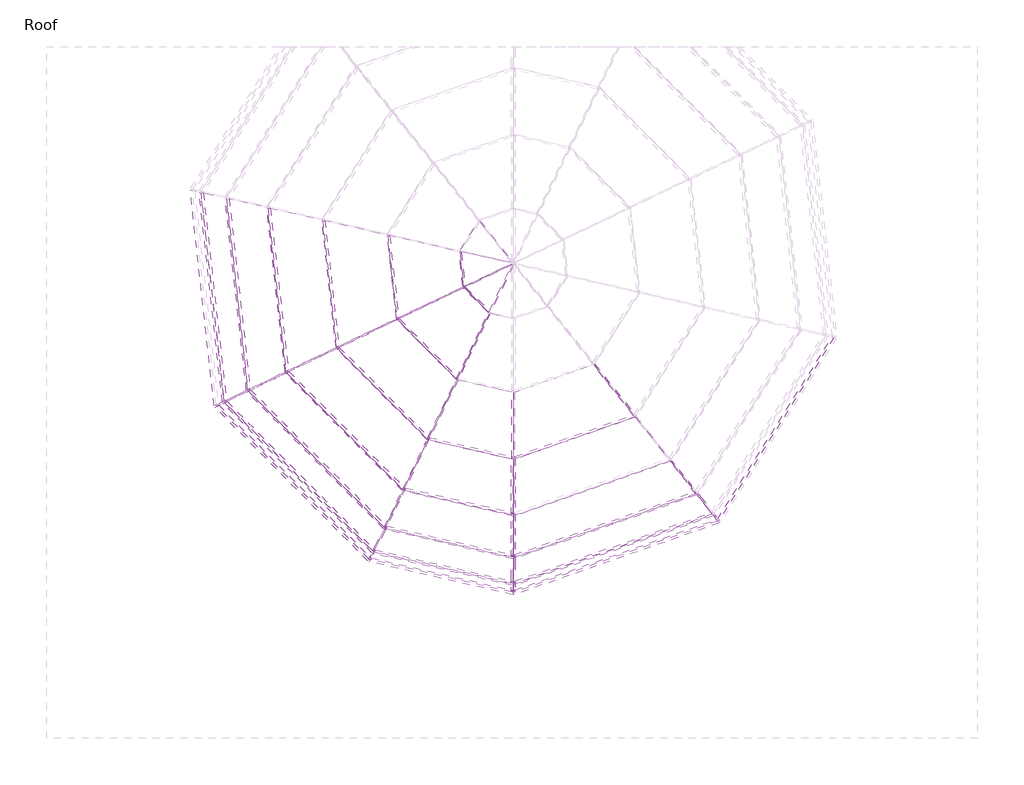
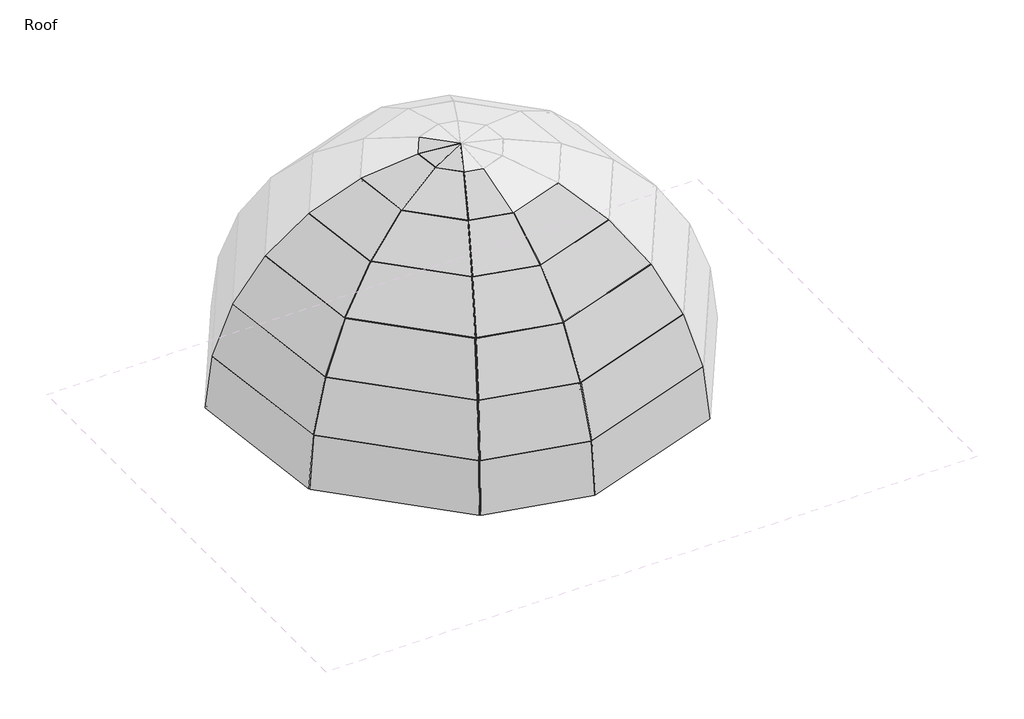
# One storey, part 1 of 3: 50 members, 26 plates.
"""IFC4 building model written with IfcOpenShell, lengths in millimetres."""

from ifc_helpers import new_model, si_unit, origin, place, context, project, spatial, transform, mapped, element, save
from components import member_4177733f, member_9a5a8c15, member_2d90878b, member_930283e5, member_073c649d, member_50d5fd5e, member_69438c30, member_4b421d57, member_97883678, member_c2c97b2d, member_c267af09, member_1d24c50e, member_f6a73803, member_19cfab1d, member_88023728, member_87472d51, member_1e756ab6, member_ee5d5078, member_656fa572, member_e5dce827, member_edda2d83, member_8e37f879, member_3071623d, member_777b2020, member_0c982175, member_dd57c742, member_19a4d049, member_8c9737d1, member_600e1e00, system_panel_glazed_566e1773, system_panel_glazed_3fa45d0b, system_panel_glazed_15b653d3, system_panel_glazed_2a1648c4, system_panel_glazed_7bc4ba0a, system_panel_glazed_a49b1de4, system_panel_glazed_db51fd20, system_panel_glazed_a2729e2c, system_panel_glazed_c7a8e9dd, system_panel_glazed_d52d0d09, system_panel_glazed_54dd6e29, system_panel_glazed_bc119c3e, system_panel_glazed_1b81f75c, system_panel_glazed_a373f290, system_panel_glazed_c068685c

model = new_model("IFC4")

# Units and contexts
model_context = context("Model", 3, world=origin())
ifc_project = project(units=[si_unit("LENGTHUNIT", "METRE", prefix="MILLI")], contexts=[model_context])

# Site, building, storey
site = spatial("IfcSite", under=ifc_project)
building = spatial("IfcBuilding", under=site)
storey = spatial("IfcBuildingStorey", under=building, Name="Roof", Elevation=15240.0)

# Members
placement = place(None, origin())
member_shape = member_4177733f(model_context)
element("IfcMember", 1, ObjectType="Rectangular Mullion : 1\" Square", at=placement, inside=storey, context=model_context, shape_type="MappedRepresentation", body=[
    mapped(member_shape, transform((269.2915171, -4606.2403771, 18288.0), x_axis=(0.03636859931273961, -0.10404009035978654, -0.9939079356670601), y_axis=(0.3279728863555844, -0.938235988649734, 0.11021349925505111), z_axis=(-0.9439868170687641, -0.32998316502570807, 0.0))),
])
member_2_shape = member_9a5a8c15(model_context)
element("IfcMember", 2, ObjectType="Rectangular Mullion : 1\" Square", at=placement, inside=storey, context=model_context, shape_type="MappedRepresentation", body=[
    mapped(member_2_shape, transform((245.314252, -4614.6219495, 18288.0), x_axis=(0.9749803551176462, -0.2207730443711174, 0.025933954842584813), y_axis=(-0.2222910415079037, -0.9683223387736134, 0.11374770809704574), z_axis=(0.0, -0.11666666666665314, -0.9931711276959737))),
])
member_3_shape = member_2d90878b(model_context)
element("IfcMember", 3, ObjectType="Rectangular Mullion : 1\" Square", at=placement, inside=storey, context=model_context, shape_type="MappedRepresentation", body=[
    mapped(member_3_shape, transform((3093.6680358, -3618.9419467, 18288.0), x_axis=(0.7822222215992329, 0.6229995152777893, 0.0), y_axis=(0.618745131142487, -0.7768805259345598, 0.11666666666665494), z_axis=(0.07268327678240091, -0.09125925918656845, -0.9931711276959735))),
])
element("IfcMember", 4, ObjectType="Rectangular Mullion : 1\" Square", at=placement, inside=storey, context=model_context, shape_type="MappedRepresentation", body=[
    mapped(member_3_shape, transform((-3877.6391616, -2018.587321, 18288.0), x_axis=(0.43218840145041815, -0.9017833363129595, 0.0), y_axis=(-0.8956251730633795, -0.4292370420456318, 0.11666666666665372), z_axis=(-0.10520805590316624, -0.050421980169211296, -0.9931711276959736))),
])
element("IfcMember", 5, ObjectType="Rectangular Mullion : 1\" Square", at=placement, inside=storey, context=model_context, shape_type="MappedRepresentation", body=[
    mapped(member_3_shape, transform((-1748.7260623, -4156.8639484, 18288.0), x_axis=(0.8998779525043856, -0.4361418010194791, 0.0), y_axis=(-0.4331634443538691, -0.8937328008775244, 0.11666666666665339), z_axis=(-0.05088321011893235, -0.1049857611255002, -0.9931711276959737))),
])
member_4_shape = member_930283e5(model_context)
element("IfcMember", 6, ObjectType="Rectangular Mullion : 1\" Square", at=placement, inside=storey, context=model_context, shape_type="MappedRepresentation", body=[
    mapped(member_4_shape, transform((3004.1408836, -3525.7773552, 19347.514959), x_axis=(-0.08074328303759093, 0.23098328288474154, 0.969601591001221), y_axis=(0.31995220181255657, -0.9152911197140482, 0.24468909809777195), z_axis=(0.9439868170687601, 0.32998316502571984, 0.0))),
])
member_5_shape = member_073c649d(model_context)
element("IfcMember", 7, ObjectType="Rectangular Mullion : 1\" Square", at=placement, inside=storey, context=model_context, shape_type="MappedRepresentation", body=[
    mapped(member_5_shape, transform((-3766.8053744, -1952.1747942, 19347.514959), x_axis=(0.24319318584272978, 0.027015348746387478, 0.9696015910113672), y_axis=(-0.9636739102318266, -0.10705064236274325, 0.24468909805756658), z_axis=(0.11040683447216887, -0.9938864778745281, 0.0))),
])
element("IfcMember", 8, ObjectType="Rectangular Mullion : 1\" Square", at=placement, inside=storey, context=model_context, shape_type="MappedRepresentation", body=[
    mapped(member_5_shape, transform((-1703.4043828, -4035.8651985, 19347.514959), x_axis=(0.17340056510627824, 0.17264124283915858, 0.969601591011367), y_axis=(-0.6871146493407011, -0.6841057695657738, 0.24468909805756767), z_axis=(0.705553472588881, -0.7086566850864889, 0.0))),
])
member_6_shape = member_50d5fd5e(model_context)
element("IfcMember", 9, ObjectType="Rectangular Mullion : 1\" Square", at=placement, inside=storey, context=model_context, shape_type="MappedRepresentation", body=[
    mapped(member_6_shape, transform((220.5581895, -4484.478872, 19347.514959), x_axis=(0.05312380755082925, 0.2314126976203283, 0.9714041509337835), y_axis=(-0.2173450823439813, -0.9467772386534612, 0.2374320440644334), z_axis=(0.9746481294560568, -0.2237432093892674, 0.0))),
])
member_7_shape = member_69438c30(model_context)
element("IfcMember", 10, ObjectType="Rectangular Mullion : 1\" Square", at=placement, inside=storey, context=model_context, shape_type="MappedRepresentation", body=[
    mapped(member_7_shape, transform((2775.7468662, -3239.0116815, 20349.3452147), x_axis=(-0.15568345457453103, 0.4453655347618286, 0.8817098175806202), y_axis=(0.2909493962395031, -0.8323224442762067, 0.47179211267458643), z_axis=(0.9439868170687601, 0.32998316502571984, 0.0))),
])
member_8_shape = member_4b421d57(model_context)
element("IfcMember", 11, ObjectType="Rectangular Mullion : 1\" Square", at=placement, inside=storey, context=model_context, shape_type="MappedRepresentation", body=[
    mapped(member_8_shape, transform((-3436.2081365, -1793.7328647, 20349.3452147), x_axis=(0.46890780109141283, 0.05208907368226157, 0.8817098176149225), y_axis=(-0.8763194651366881, -0.09734678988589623, 0.47179211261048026), z_axis=(0.1104068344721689, -0.9938864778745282, 0.0))),
])
element("IfcMember", 12, ObjectType="Rectangular Mullion : 1\" Square", at=placement, inside=storey, context=model_context, shape_type="MappedRepresentation", body=[
    mapped(member_8_shape, transform((-1543.5131219, -3705.9664816, 20349.3452147), x_axis=(0.334338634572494, 0.3328745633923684, 0.8817098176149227), y_axis=(-0.6248295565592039, -0.6220934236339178, 0.47179211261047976), z_axis=(0.7055534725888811, -0.7086566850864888, 0.0))),
])
member_9_shape = member_97883678(model_context)
element("IfcMember", 13, ObjectType="Rectangular Mullion : 1\" Square", at=placement, inside=storey, context=model_context, shape_type="MappedRepresentation", body=[
    mapped(member_9_shape, transform((220.5581895, -4117.8750276, 20349.3452147), x_axis=(0.10295150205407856, 0.44846719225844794, 0.8878503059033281), y_axis=(-0.198650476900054, -0.8653416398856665, 0.4601324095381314), z_axis=(0.9746481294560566, -0.223743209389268, 0.0))),
])
member_10_shape = member_c2c97b2d(model_context)
element("IfcMember", 14, ObjectType="Rectangular Mullion : 1\" Square", at=placement, inside=storey, context=model_context, shape_type="MappedRepresentation", body=[
    mapped(member_10_shape, transform((-2905.2487976, -1539.265457, 21238.9466754), x_axis=(0.6628942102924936, 0.07363824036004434, 0.7450829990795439), y_axis=(-0.7405279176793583, -0.08226225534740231, 0.6669717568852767), z_axis=(0.11040683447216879, -0.9938864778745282, 0.0))),
])
element("IfcMember", 15, ObjectType="Rectangular Mullion : 1\" Square", at=placement, inside=storey, context=model_context, shape_type="MappedRepresentation", body=[
    mapped(member_10_shape, transform((-1286.7179993, -3176.1290101, 21238.9466754), x_axis=(0.472653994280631, 0.470584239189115, 0.7450829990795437), y_axis=(-0.5280080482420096, -0.5256958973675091, 0.6669717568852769), z_axis=(0.705553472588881, -0.7086566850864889, 0.0))),
])
member_11_shape = member_c267af09(model_context)
element("IfcMember", 16, ObjectType="Rectangular Mullion : 1\" Square", at=placement, inside=storey, context=model_context, shape_type="MappedRepresentation", body=[
    mapped(member_11_shape, transform((220.5581895, -3529.0868813, 21238.9466754), x_axis=(0.14656877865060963, 0.6384684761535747, 0.7555631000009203), y_axis=(-0.16905211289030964, -0.7364081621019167, 0.6550758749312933), z_axis=(0.9746481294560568, -0.22374320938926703, 0.0))),
])
member_12_shape = member_1d24c50e(model_context)
element("IfcMember", 17, ObjectType="Rectangular Mullion : 1\" Square", at=placement, inside=storey, context=model_context, shape_type="MappedRepresentation", body=[
    mapped(member_12_shape, transform((1923.6677186, -2169.1629458, 21967.8854838), x_axis=(-0.2708388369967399, 0.7747919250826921, 0.5712650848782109), y_axis=(0.1885078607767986, -0.5392667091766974, 0.820765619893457), z_axis=(0.9439868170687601, 0.32998316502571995, 0.0))),
])
member_13_shape = member_f6a73803(model_context)
element("IfcMember", 18, ObjectType="Rectangular Mullion : 1\" Square", at=placement, inside=storey, context=model_context, shape_type="MappedRepresentation", body=[
    mapped(member_13_shape, transform((-2202.8351439, -1202.6269077, 21967.8854838), x_axis=(0.8157478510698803, 0.09061813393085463, 0.571265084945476), y_axis=(-0.5677726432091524, -0.0630715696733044, 0.8207656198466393), z_axis=(0.11040683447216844, -0.9938864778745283, 0.0))),
])
element("IfcMember", 19, ObjectType="Rectangular Mullion : 1\" Square", at=placement, inside=storey, context=model_context, shape_type="MappedRepresentation", body=[
    mapped(member_13_shape, transform((-947.000083, -2475.1994908, 21967.8854838), x_axis=(0.5816410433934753, 0.5790940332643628, 0.5712650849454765), y_axis=(-0.4048308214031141, -0.40305806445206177, 0.8207656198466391), z_axis=(0.7055534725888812, -0.7086566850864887, 0.0))),
])
member_14_shape = member_19cfab1d(model_context)
element("IfcMember", 20, ObjectType="Rectangular Mullion : 1\" Square", at=placement, inside=storey, context=model_context, shape_type="MappedRepresentation", body=[
    mapped(member_14_shape, transform((220.5581895, -2750.1706768, 21967.8854838), x_axis=(0.1816939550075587, 0.7914773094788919, 0.5835674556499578), y_axis=(-0.13056925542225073, -0.5687729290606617, 0.812064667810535), z_axis=(0.9746481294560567, -0.22374320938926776, 0.0))),
])
member_15_shape = member_88023728(model_context)
element("IfcMember", 21, ObjectType="Rectangular Mullion : 1\" Square", at=placement, inside=storey, context=model_context, shape_type="MappedRepresentation", body=[
    mapped(member_15_shape, transform((-1367.2096967, -802.1453156, 22496.4749713), x_axis=(0.9225634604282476, 0.10248384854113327, 0.3719861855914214), y_axis=(-0.3697120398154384, -0.04106981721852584, 0.9282382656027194), z_axis=(0.11040683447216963, -0.9938864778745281, 0.0))),
])
element("IfcMember", 22, ObjectType="Rectangular Mullion : 1\" Square", at=placement, inside=storey, context=model_context, shape_type="MappedRepresentation", body=[
    mapped(member_15_shape, transform((-542.8551262, -1641.3396419, 22496.4749713), x_axis=(0.6578022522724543, 0.654921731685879, 0.37198618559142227), y_axis=(-0.2636104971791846, -0.2624561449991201, 0.928238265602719), z_axis=(0.7055534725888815, -0.7086566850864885, 0.0))),
])
member_16_shape = member_87472d51(model_context)
element("IfcMember", 23, ObjectType="Rectangular Mullion : 1\" Square", at=placement, inside=storey, context=model_context, shape_type="MappedRepresentation", body=[
    mapped(member_16_shape, transform((-443.8676191, -359.6246786, 22795.9363771), x_axis=(0.9814480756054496, 0.10902510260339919, 0.15771240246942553), y_axis=(-0.15674822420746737, -0.01741252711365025, 0.9874850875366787), z_axis=(0.11040683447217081, -0.993886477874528, 0.0))),
])
element("IfcMember", 24, ObjectType="Rectangular Mullion : 1\" Square", at=placement, inside=storey, context=model_context, shape_type="MappedRepresentation", body=[
    mapped(member_16_shape, transform((-96.2865765, -719.9484998, 22795.9363771), x_axis=(0.6997879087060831, 0.6967235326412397, 0.1577124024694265), y_axis=(-0.11176394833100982, -0.11127453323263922, 0.9874850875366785), z_axis=(0.7055534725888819, -0.7086566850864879, 0.0))),
])
member_17_shape = member_1e756ab6(model_context)
element("IfcMember", 25, ObjectType="Rectangular Mullion : 1\" Square", at=placement, inside=storey, context=model_context, shape_type="MappedRepresentation", body=[
    mapped(member_17_shape, transform((-3868.6786325, -2027.5872609, 18288.0), x_axis=(-0.07810353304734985, -0.07776151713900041, -0.9939079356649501), y_axis=(-0.7043395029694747, -0.701255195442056, 0.11021349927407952), z_axis=(-0.7055534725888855, 0.7086566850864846, 0.0))),
])
element("IfcMember", 26, ObjectType="Rectangular Mullion : 1\" Square", at=placement, inside=storey, context=model_context, shape_type="MappedRepresentation", body=[
    mapped(member_17_shape, transform((3100.4349529, -3608.1949083, 18288.0), x_axis=(0.09326525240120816, -0.05872485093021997, -0.9939079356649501), y_axis=(0.8410682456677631, -0.5295820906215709, 0.11021349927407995), z_axis=(-0.5328281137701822, -0.8462234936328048, 0.0))),
])
member_18_shape = member_ee5d5078(model_context)
element("IfcMember", 27, ObjectType="Rectangular Mullion : 1\" Square", at=placement, inside=storey, context=model_context, shape_type="MappedRepresentation", body=[
    mapped(member_18_shape, transform((-1736.348031, -4159.7054871, 18288.0), x_axis=(-0.02545027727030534, -0.1108639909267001, -0.9935096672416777), y_axis=(-0.22229104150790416, -0.9683223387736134, 0.11374770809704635), z_axis=(-0.9746481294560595, 0.22374320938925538, 0.0))),
])
member_19_shape = member_656fa572(model_context)
element("IfcMember", 28, ObjectType="Rectangular Mullion : 1\" Square", at=placement, inside=storey, context=model_context, shape_type="MappedRepresentation", body=[
    mapped(member_19_shape, transform((245.314252, -4490.1619495, 19347.514959), x_axis=(0.977541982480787, -0.19790633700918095, 0.0724206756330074), y_axis=(-0.21074077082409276, -0.9180081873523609, 0.3359304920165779), z_axis=(0.0, -0.34364814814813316, -0.9390984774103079))),
])
member_20_shape = member_e5dce827(model_context)
element("IfcMember", 29, ObjectType="Rectangular Mullion : 1\" Square", at=placement, inside=storey, context=model_context, shape_type="MappedRepresentation", body=[
    mapped(member_20_shape, transform((245.314252, -4123.5581051, 20349.3452147), x_axis=(0.9821656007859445, -0.15678759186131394, 0.10377082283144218), y_axis=(-0.1880179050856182, -0.8190250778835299, 0.5420767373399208), z_axis=(0.0, -0.5519198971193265, -0.8338971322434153))),
])
member_21_shape = member_edda2d83(model_context)
element("IfcMember", 30, ObjectType="Rectangular Mullion : 1\" Square", at=placement, inside=storey, context=model_context, shape_type="MappedRepresentation", body=[
    mapped(member_21_shape, transform((245.314252, -3534.7699588, 21238.9466754), x_axis=(0.9879200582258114, -0.10588634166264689, 0.1131461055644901), y_axis=(-0.1549643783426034, -0.6750405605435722, 0.7213225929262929), z_axis=(0.0, -0.7301426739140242, -0.6832947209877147))),
])
member_22_shape = member_8e37f879(model_context)
element("IfcMember", 31, ObjectType="Rectangular Mullion : 1\" Square", at=placement, inside=storey, context=model_context, shape_type="MappedRepresentation", body=[
    mapped(member_22_shape, transform((245.314252, -2755.8537543, 21967.8854838), x_axis=(0.9935929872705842, -0.05599916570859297, 0.0981685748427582), y_axis=(-0.1130175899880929, -0.49231609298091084, 0.8630480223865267), z_axis=(0.0, -0.8686132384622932, -0.4954907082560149))),
])
member_23_shape = member_3071623d(model_context)
element("IfcMember", 32, ObjectType="Rectangular Mullion : 1\" Square", at=placement, inside=storey, context=model_context, shape_type="MappedRepresentation", body=[
    mapped(member_23_shape, transform((245.314252, -4490.1619495, 19347.514959), x_axis=(-0.9446871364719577, -0.32573320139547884, 0.03826350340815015), y_axis=(0.3279728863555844, -0.9382359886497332, 0.1102134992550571), z_axis=(0.0, 0.11666666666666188, 0.9931711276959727))),
])
member_24_shape = member_777b2020(model_context)
element("IfcMember", 33, ObjectType="Rectangular Mullion : 1\" Square", at=placement, inside=storey, context=model_context, shape_type="MappedRepresentation", body=[
    mapped(member_24_shape, transform((245.314252, -4123.5581051, 20349.3452147), x_axis=(-0.9501154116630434, -0.29290345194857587, 0.10718335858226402), y_axis=(0.3118985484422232, -0.8922519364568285, 0.3265054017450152), z_axis=(0.0, 0.3436481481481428, 0.9390984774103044))),
])
member_25_shape = member_0c982175(model_context)
element("IfcMember", 34, ObjectType="Rectangular Mullion : 1\" Square", at=placement, inside=storey, context=model_context, shape_type="MappedRepresentation", body=[
    mapped(member_25_shape, transform((245.314252, -3534.7699588, 21238.9466754), x_axis=(-0.9600430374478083, -0.23336811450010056, 0.15445610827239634), y_axis=(0.2798524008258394, -0.8005771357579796, 0.5298668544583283), z_axis=(0.0, 0.5519198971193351, 0.8338971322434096))),
])
member_26_shape = member_dd57c742(model_context)
element("IfcMember", 35, ObjectType="Rectangular Mullion : 1\" Square", at=placement, inside=storey, context=model_context, shape_type="MappedRepresentation", body=[
    mapped(member_26_shape, transform((245.314252, -2755.8537543, 21967.8854838), x_axis=(-0.9726395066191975, -0.1587427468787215, 0.16962644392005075), y_axis=(0.23231958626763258, -0.6645994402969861, 0.7101656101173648), z_axis=(0.0, 0.730142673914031, 0.6832947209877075))),
])
member_27_shape = member_19a4d049(model_context)
element("IfcMember", 36, ObjectType="Rectangular Mullion : 1\" Square", at=placement, inside=storey, context=model_context, shape_type="MappedRepresentation", body=[
    mapped(member_27_shape, transform((3016.1295162, -3521.586569, 19347.514959), x_axis=(0.7822222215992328, 0.6229995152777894, 0.0), y_axis=(0.5850578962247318, -0.7345836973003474, 0.3436481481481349), z_axis=(0.21409262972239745, -0.26880921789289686, -0.9390984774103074))),
])
element("IfcMember", 37, ObjectType="Rectangular Mullion : 1\" Square", at=placement, inside=storey, context=model_context, shape_type="MappedRepresentation", body=[
    mapped(member_27_shape, transform((2787.7354988, -3234.8208953, 20349.3452147), x_axis=(0.7822222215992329, 0.6229995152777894, 0.0), y_axis=(0.5195175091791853, -0.6522928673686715, 0.5519198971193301), z_axis=(0.3438458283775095, -0.4317240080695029, -0.833897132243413))),
])
element("IfcMember", 38, ObjectType="Rectangular Mullion : 1\" Square", at=placement, inside=storey, context=model_context, shape_type="MappedRepresentation", body=[
    mapped(member_27_shape, transform((1935.6563512, -2164.9721596, 21967.8854838), x_axis=(0.7822222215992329, 0.6229995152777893, 0.0), y_axis=(0.3086904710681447, -0.3875838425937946, 0.868613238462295), z_axis=(0.5411456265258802, -0.679448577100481, -0.49549070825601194))),
])
element("IfcMember", 39, ObjectType="Rectangular Mullion : 1\" Square", at=placement, inside=storey, context=model_context, shape_type="MappedRepresentation", body=[
    mapped(member_27_shape, transform((-3765.4032076, -1964.7971525, 19347.514959), x_axis=(0.43218840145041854, -0.9017833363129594, 0.0), y_axis=(-0.8468633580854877, -0.4058674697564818, 0.3436481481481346), z_axis=(-0.30989617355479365, -0.14852074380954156, -0.9390984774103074))),
])
element("IfcMember", 40, ObjectType="Rectangular Mullion : 1\" Square", at=placement, inside=storey, context=model_context, shape_type="MappedRepresentation", body=[
    mapped(member_27_shape, transform((-3434.8059697, -1806.355223, 20349.3452147), x_axis=(0.4321884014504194, -0.9017833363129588, 0.0), y_axis=(-0.7519945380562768, -0.36040066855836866, 0.5519198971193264), z_axis=(-0.49771216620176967, -0.23853337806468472, -0.8338971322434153))),
])
element("IfcMember", 41, ObjectType="Rectangular Mullion : 1\" Square", at=placement, inside=storey, context=model_context, shape_type="MappedRepresentation", body=[
    mapped(member_27_shape, transform((-2903.8466308, -1551.8878153, 21238.9466754), x_axis=(0.4321884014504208, -0.9017833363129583, 0.0), y_axis=(-0.6161837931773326, -0.2953120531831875, 0.7301426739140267), z_axis=(-0.6584304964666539, -0.315559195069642, -0.6832947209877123))),
])
element("IfcMember", 42, ObjectType="Rectangular Mullion : 1\" Square", at=placement, inside=storey, context=model_context, shape_type="MappedRepresentation", body=[
    mapped(member_27_shape, transform((-2201.4329771, -1215.249266, 21967.8854838), x_axis=(0.4321884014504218, -0.9017833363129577, 0.0), y_axis=(-0.4468252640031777, -0.2141453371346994, 0.8686132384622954), z_axis=(-0.7833009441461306, -0.37540456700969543, -0.49549070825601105))),
])
element("IfcMember", 43, ObjectType="Rectangular Mullion : 1\" Square", at=placement, inside=storey, context=model_context, shape_type="MappedRepresentation", body=[
    mapped(member_27_shape, transform((-1694.4438537, -4044.8651384, 19347.514959), x_axis=(0.8998779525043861, -0.43614180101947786, 0.0), y_axis=(-0.4095801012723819, -0.8450740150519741, 0.3436481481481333), z_axis=(-0.14987932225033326, -0.3092413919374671, -0.9390984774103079))),
])
element("IfcMember", 44, ObjectType="Rectangular Mullion : 1\" Square", at=placement, inside=storey, context=model_context, shape_type="MappedRepresentation", body=[
    mapped(member_27_shape, transform((-1534.5525928, -3714.9664215, 20349.3452147), x_axis=(0.8998779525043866, -0.43614180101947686, 0.0), y_axis=(-0.36369739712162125, -0.7504056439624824, 0.5519198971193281), z_axis=(-0.24071533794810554, -0.4966605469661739, -0.8338971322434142))),
])
element("IfcMember", 45, ObjectType="Rectangular Mullion : 1\" Square", at=placement, inside=storey, context=model_context, shape_type="MappedRepresentation", body=[
    mapped(member_27_shape, transform((-1277.7574702, -3185.12895, 21238.9466754), x_axis=(0.8998779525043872, -0.43614180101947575, 0.0), y_axis=(-0.2980133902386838, -0.6148818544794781, 0.7301426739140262), z_axis=(-0.31844574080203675, -0.6570392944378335, -0.6832947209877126))),
])
element("IfcMember", 46, ObjectType="Rectangular Mullion : 1\" Square", at=placement, inside=storey, context=model_context, shape_type="MappedRepresentation", body=[
    mapped(member_27_shape, transform((-938.0395539, -2484.1994307, 21967.8854838), x_axis=(0.8998779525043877, -0.4361418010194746, 0.0), y_axis=(-0.21610420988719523, -0.44588116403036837, 0.8686132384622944), z_axis=(-0.3788385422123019, -0.7816459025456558, -0.49549070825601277))),
])
member_28_shape = member_8c9737d1(model_context)
element("IfcMember", 47, ObjectType="Rectangular Mullion : 1\" Square", at=placement, inside=storey, context=model_context, shape_type="MappedRepresentation", body=[
    mapped(member_28_shape, transform((-1365.8075299, -814.7676739, 22496.4749713), x_axis=(0.43218840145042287, -0.9017833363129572, 0.0), y_axis=(-0.2531395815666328, -0.12131959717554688, 0.9597926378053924), z_axis=(-0.8655250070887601, -0.4148112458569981, -0.28070997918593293))),
])
element("IfcMember", 48, ObjectType="Rectangular Mullion : 1\" Square", at=placement, inside=storey, context=model_context, shape_type="MappedRepresentation", body=[
    mapped(member_28_shape, transform((-533.8945971, -1650.3395818, 22496.4749713), x_axis=(0.8998779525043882, -0.4361418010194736, 0.0), y_axis=(-0.12242935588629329, -0.25260472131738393, 0.9597926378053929), z_axis=(-0.41860568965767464, -0.8636962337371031, -0.2807099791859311))),
])
member_29_shape = member_600e1e00(model_context)
element("IfcMember", 49, ObjectType="Rectangular Mullion : 1\" Square", at=placement, inside=storey, context=model_context, shape_type="MappedRepresentation", body=[
    mapped(member_29_shape, transform((-442.4654523, -372.2470368, 22795.9363771), x_axis=(0.4321884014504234, -0.9017833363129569, 0.0), y_axis=(-0.07573099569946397, -0.03629481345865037, 0.9964675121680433), z_axis=(-0.89859779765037, -0.43066170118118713, -0.08397914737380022))),
])
element("IfcMember", 50, ObjectType="Rectangular Mullion : 1\" Square", at=placement, inside=storey, context=model_context, shape_type="MappedRepresentation", body=[
    mapped(member_29_shape, transform((-87.3260474, -728.9484397, 22795.9363771), x_axis=(0.8998779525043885, -0.43614180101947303, 0.0), y_axis=(-0.036626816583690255, -0.07557098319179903, 0.9964675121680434), z_axis=(-0.4346011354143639, -0.8966991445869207, -0.08397914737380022))),
])

# Plates
system_panel_glazed_shape = system_panel_glazed_566e1773(model_context)
element("IfcPlate", 51, ObjectType="System Panel : Glazed", at=placement, inside=storey, context=model_context, shape_type="MappedRepresentation", body=[
    mapped(system_panel_glazed_shape, transform((1669.4911439, -4116.7819481, 18288.0), x_axis=(0.9439868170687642, 0.32998316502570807, 0.0), y_axis=(-0.32797288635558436, 0.938235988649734, -0.11021349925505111), z_axis=(-0.03636859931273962, 0.10404009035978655, 0.9939079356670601))),
])
element("IfcPlate", 52, ObjectType="System Panel : Glazed", at=placement, inside=storey, context=model_context, shape_type="MappedRepresentation", body=[
    mapped(system_panel_glazed_shape, transform((-4044.208079, -519.1276597, 18288.0), x_axis=(0.11040683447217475, -0.9938864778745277, 0.0), y_axis=(0.9878316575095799, 0.10973422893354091, -0.1102134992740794), z_axis=(0.10953970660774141, 0.012168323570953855, 0.9939079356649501))),
])
element("IfcPlate", 53, ObjectType="System Panel : Glazed", at=placement, inside=storey, context=model_context, shape_type="MappedRepresentation", body=[
    mapped(system_panel_glazed_shape, transform((-2813.182612, -3087.7256347, 18288.0), x_axis=(0.7055534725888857, -0.7086566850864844, 0.0), y_axis=(0.7043395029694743, 0.7012551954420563, -0.11021349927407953), z_axis=(0.07810353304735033, 0.07776151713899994, 0.9939079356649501))),
])
system_panel_glazed_2_shape = system_panel_glazed_3fa45d0b(model_context)
element("IfcPlate", 54, ObjectType="System Panel : Glazed", at=placement, inside=storey, context=model_context, shape_type="MappedRepresentation", body=[
    mapped(system_panel_glazed_2_shape, transform((-751.7059052, -4385.7429489, 18288.0), x_axis=(0.9746481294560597, -0.22374320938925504, 0.0), y_axis=(0.22229104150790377, 0.9683223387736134, -0.11374770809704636), z_axis=(0.025450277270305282, 0.11086399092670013, 0.9935096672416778))),
])
system_panel_glazed_3_shape = system_panel_glazed_15b653d3(model_context)
element("IfcPlate", 55, ObjectType="System Panel : Glazed", at=placement, inside=storey, context=model_context, shape_type="MappedRepresentation", body=[
    mapped(system_panel_glazed_3_shape, transform((1630.7218841, -4005.8742592, 19347.514959), x_axis=(0.9439868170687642, 0.3299831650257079, 0.0), y_axis=(-0.3118985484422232, 0.8922519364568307, -0.3265054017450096), z_axis=(-0.10774128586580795, 0.3082167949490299, 0.9451953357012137))),
])
element("IfcPlate", 56, ObjectType="System Panel : Glazed", at=placement, inside=storey, context=model_context, shape_type="MappedRepresentation", body=[
    mapped(system_panel_glazed_3_shape, transform((-3927.4377489, -506.1561154, 19347.514959), x_axis=(0.11040683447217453, -0.9938864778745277, 0.0), y_axis=(0.9394168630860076, 0.1043560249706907, -0.3265054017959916), z_axis=(0.3245093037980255, 0.03604842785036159, 0.9451953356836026))),
])
element("IfcPlate", 57, ObjectType="System Panel : Glazed", at=placement, inside=storey, context=model_context, shape_type="MappedRepresentation", body=[
    mapped(system_panel_glazed_3_shape, transform((-2729.9235307, -3004.8311455, 19347.514959), x_axis=(0.7055534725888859, -0.708656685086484, 0.0), y_axis=(0.6698189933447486, 0.6668858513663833, -0.3265054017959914), z_axis=(0.2313802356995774, 0.2303670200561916, 0.9451953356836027))),
])
system_panel_glazed_4_shape = system_panel_glazed_2a1648c4(model_context)
element("IfcPlate", 58, ObjectType="System Panel : Glazed", at=placement, inside=storey, context=model_context, shape_type="MappedRepresentation", body=[
    mapped(system_panel_glazed_4_shape, transform((-724.5648009, -4267.513544, 19347.514959), x_axis=(0.9746481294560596, -0.2237432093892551, 0.0), y_axis=(0.2107407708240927, 0.9180081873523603, -0.33593049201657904), z_axis=(0.07516216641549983, 0.3274140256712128, 0.941886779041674))),
])
system_panel_glazed_5_shape = system_panel_glazed_7bc4ba0a(model_context)
element("IfcPlate", 59, ObjectType="System Panel : Glazed", at=placement, inside=storey, context=model_context, shape_type="MappedRepresentation", body=[
    mapped(system_panel_glazed_5_shape, transform((1516.5248754, -3679.1895002, 20349.3452147), x_axis=(0.9439868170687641, 0.32998316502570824, 0.0), y_axis=(-0.2798524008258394, 0.8005771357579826, -0.5298668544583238), z_axis=(-0.17484714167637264, 0.5001873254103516, 0.8480808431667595))),
])
element("IfcPlate", 60, ObjectType="System Panel : Glazed", at=placement, inside=storey, context=model_context, shape_type="MappedRepresentation", body=[
    mapped(system_panel_glazed_5_shape, transform((-3583.4842543, -467.9477109, 20349.3452147), x_axis=(0.11040683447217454, -0.9938864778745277, 0.0), y_axis=(0.8428960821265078, 0.093633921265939, -0.5298668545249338), z_axis=(0.5266275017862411, 0.058500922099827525, 0.8480808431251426))),
])
element("IfcPlate", 61, ObjectType="System Panel : Glazed", at=placement, inside=storey, context=model_context, shape_type="MappedRepresentation", body=[
    mapped(system_panel_glazed_5_shape, transform((-2484.6792812, -2760.6608223, 20349.3452147), x_axis=(0.7055534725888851, -0.7086566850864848, 0.0), y_axis=(0.6009981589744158, 0.5983663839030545, -0.5298668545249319), z_axis=(0.37549368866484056, 0.37384939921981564, 0.8480808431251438))),
])
system_panel_glazed_6_shape = system_panel_glazed_a49b1de4(model_context)
element("IfcPlate", 62, ObjectType="System Panel : Glazed", at=placement, inside=storey, context=model_context, shape_type="MappedRepresentation", body=[
    mapped(system_panel_glazed_6_shape, transform((-644.6191704, -3919.2622633, 20349.3452147), x_axis=(0.9746481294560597, -0.22374320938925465, 0.0), y_axis=(0.18801790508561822, 0.8190250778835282, -0.5420767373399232), z_axis=(0.12128598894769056, 0.52833407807, 0.8403289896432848))),
])
system_panel_glazed_7_shape = system_panel_glazed_db51fd20(model_context)
element("IfcPlate", 63, ObjectType="System Panel : Glazed", at=placement, inside=storey, context=model_context, shape_type="MappedRepresentation", body=[
    mapped(system_panel_glazed_7_shape, transform((1333.1175105, -3154.5138412, 21238.9466754), x_axis=(0.9439868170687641, 0.3299831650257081, 0.0), y_axis=(-0.23231958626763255, 0.664599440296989, -0.7101656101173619), z_axis=(-0.23434269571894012, 0.6703869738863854, 0.7040346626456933))),
])
element("IfcPlate", 64, ObjectType="System Panel : Glazed", at=placement, inside=storey, context=model_context, shape_type="MappedRepresentation", body=[
    mapped(system_panel_glazed_7_shape, transform((-3031.0739521, -406.5826816, 21238.9466754), x_axis=(0.11040683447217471, -0.9938864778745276, 0.0), y_axis=(0.6997305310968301, 0.0777302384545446, -0.7101656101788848), z_axis=(0.7058239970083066, 0.07840713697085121, 0.7040346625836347))),
])
element("IfcPlate", 65, ObjectType="System Panel : Glazed", at=placement, inside=storey, context=model_context, shape_type="MappedRepresentation", body=[
    mapped(system_panel_glazed_7_shape, transform((-2090.8020505, -2368.5083826, 21238.9466754), x_axis=(0.7055534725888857, -0.7086566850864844, 0.0), y_axis=(0.4989188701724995, 0.4967341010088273, -0.7101656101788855), z_axis=(0.5032636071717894, 0.5010598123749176, 0.704034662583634))),
])
system_panel_glazed_8_shape = system_panel_glazed_a2729e2c(model_context)
element("IfcPlate", 66, ObjectType="System Panel : Glazed", at=placement, inside=storey, context=model_context, shape_type="MappedRepresentation", body=[
    mapped(system_panel_glazed_8_shape, transform((-516.2216091, -3359.9494544, 21238.9466754), x_axis=(0.97464812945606, -0.22374320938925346, 0.0), y_axis=(0.15496437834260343, 0.6750405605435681, -0.7213225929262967), z_axis=(0.16139103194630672, 0.7030357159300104, 0.6925992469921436))),
])
system_panel_glazed_9_shape = system_panel_glazed_c7a8e9dd(model_context)
element("IfcPlate", 67, ObjectType="System Panel : Glazed", at=placement, inside=storey, context=model_context, shape_type="MappedRepresentation", body=[
    mapped(system_panel_glazed_9_shape, transform((1090.4853016, -2460.4129569, 21967.8854838), x_axis=(0.9439868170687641, 0.3299831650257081, 0.0), y_axis=(-0.170664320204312, 0.48822147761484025, -0.8558700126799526), z_axis=(-0.28242269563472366, 0.8079300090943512, 0.5171909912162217))),
])
element("IfcPlate", 68, ObjectType="System Panel : Glazed", at=placement, inside=storey, context=model_context, shape_type="MappedRepresentation", body=[
    mapped(system_panel_glazed_9_shape, transform((-2300.2825144, -325.4020125, 21967.8854838), x_axis=(0.11040683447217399, -0.9938864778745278, 0.0), y_axis=(0.5140291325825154, 0.057101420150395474, -0.8558700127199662), z_axis=(0.850637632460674, 0.09449389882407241, 0.5171909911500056))),
])
element("IfcPlate", 69, ObjectType="System Panel : Glazed", at=placement, inside=storey, context=model_context, shape_type="MappedRepresentation", body=[
    mapped(system_panel_glazed_9_shape, transform((-1569.7362655, -1849.7243483, 21967.8854838), x_axis=(0.7055534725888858, -0.7086566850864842, 0.0), y_axis=(0.3665108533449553, 0.3649058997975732, -0.8558700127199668), z_axis=(0.6065180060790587, 0.6038620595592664, 0.5171909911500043))),
])
system_panel_glazed_10_shape = system_panel_glazed_d52d0d09(model_context)
element("IfcPlate", 70, ObjectType="System Panel : Glazed", at=placement, inside=storey, context=model_context, shape_type="MappedRepresentation", body=[
    mapped(system_panel_glazed_10_shape, transform((-346.362651, -2620.0265925, 21967.8854838), x_axis=(0.9746481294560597, -0.22374320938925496, 0.0), y_axis=(0.11301758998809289, 0.492316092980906, -0.8630480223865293), z_axis=(0.19310113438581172, 0.8411681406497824, 0.5051218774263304))),
])
system_panel_glazed_11_shape = system_panel_glazed_54dd6e29(model_context)
element("IfcPlate", 71, ObjectType="System Panel : Glazed", at=placement, inside=storey, context=model_context, shape_type="MappedRepresentation", body=[
    mapped(system_panel_glazed_11_shape, transform((-1430.8974749, -228.82554, 22496.4749713), x_axis=(0.11040683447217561, -0.9938864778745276, 0.0), y_axis=(0.29413578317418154, 0.03267435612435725, -0.9552049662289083), z_axis=(0.9493652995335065, 0.1054611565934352, 0.29594504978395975))),
])
element("IfcPlate", 72, ObjectType="System Panel : Glazed", at=placement, inside=storey, context=model_context, shape_type="MappedRepresentation", body=[
    mapped(system_panel_glazed_11_shape, transform((-949.8510635, -1232.5536279, 22496.4749713), x_axis=(0.7055534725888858, -0.7086566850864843, 0.0), y_axis=(0.20972343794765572, 0.20880505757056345, -0.955204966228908), z_axis=(0.6769123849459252, 0.6739481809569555, 0.29594504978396))),
])
system_panel_glazed_12_shape = system_panel_glazed_bc119c3e(model_context)
element("IfcPlate", 73, ObjectType="System Panel : Glazed", at=placement, inside=storey, context=model_context, shape_type="MappedRepresentation", body=[
    mapped(system_panel_glazed_12_shape, transform((-144.2901726, -1739.7783667, 22496.4749713), x_axis=(0.9746481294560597, -0.22374320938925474, 0.0), y_axis=(0.0643072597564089, 0.2801289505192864, -0.9578060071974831), z_axis=(0.2143025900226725, 0.9335238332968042, 0.287415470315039))),
])
system_panel_glazed_13_shape = system_panel_glazed_1b81f75c(model_context)
element("IfcPlate", 74, ObjectType="System Panel : Glazed", at=placement, inside=storey, context=model_context, shape_type="MappedRepresentation", body=[
    mapped(system_panel_glazed_13_shape, transform((-127.1454334, -43.3815844, 22831.9905428), x_axis=(0.9971834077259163, 0.0035519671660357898, 0.0749175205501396), y_axis=(0.07500167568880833, -0.04722511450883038, -0.9960645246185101), z_axis=(0.0, 0.9988779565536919, -0.0473585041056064))),
])
system_panel_glazed_14_shape = system_panel_glazed_a373f290(model_context)
element("IfcPlate", 75, ObjectType="System Panel : Glazed", at=placement, inside=storey, context=model_context, shape_type="MappedRepresentation", body=[
    mapped(system_panel_glazed_14_shape, transform((-127.4981028, -372.5206602, 22823.7885332), x_axis=(0.9961125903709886, -0.0008653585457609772, 0.08808495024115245), y_axis=(0.08808920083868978, 0.009785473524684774, -0.9960645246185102), z_axis=(0.0, 0.9999517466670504, 0.009823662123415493))),
])
system_panel_glazed_15_shape = system_panel_glazed_c068685c(model_context)
element("IfcPlate", 76, ObjectType="System Panel : Glazed", at=placement, inside=storey, context=model_context, shape_type="MappedRepresentation", body=[
    mapped(system_panel_glazed_15_shape, transform((-99.1228485, -728.901922, 22795.195425), x_axis=(0.9980255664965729, -0.003935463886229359, 0.06268557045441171), y_axis=(0.06280898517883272, 0.06253394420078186, -0.9960645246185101), z_axis=(0.0, 0.9980350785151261, 0.06265765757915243))),
])

save(model, "model.ifc")
